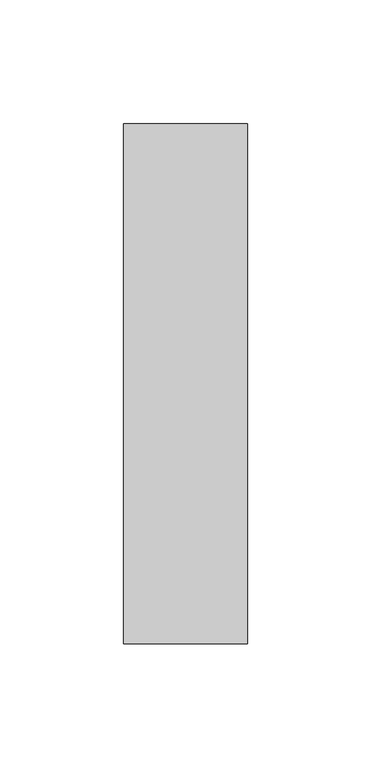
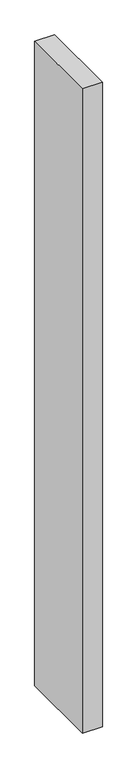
"""IFC4 building model written with IfcOpenShell, lengths in millimetres: proxy geometry, Menneau extrémité façade."""

from ifc_helpers import new_model, si_unit, frame, origin, place, context, project, spatial, polyline, outline, extrude, source, transform, mapped, element, save


def generic_models_8ddd485e(model_context):
    return source(origin(), model_context, "Body", "SweptSolid", [
        extrude(outline(polyline([(-3899.9988284, -10899.999999), (-3949.9987968, -10899.999999), (-3949.9987968, -10689.999999), (-3899.9988284, -10689.999999), (-3899.9988284, -10899.999999)])), frame((0.0, 0.0, 3175.0), z_axis=(0.0, 0.0, 1.0), x_axis=(1.0, 0.0, 0.0)), (0.0, 0.0, 1.0), 1725.0),
    ])


if __name__ == "__main__":
    model = new_model("IFC4")
    model_context = context("Model", 3, world=origin())
    ifc_project = project(units=[si_unit("LENGTHUNIT", "METRE", prefix="MILLI")], contexts=[model_context])
    site = spatial("IfcSite", under=ifc_project)
    building = spatial("IfcBuilding", under=site)
    placement = place(None, origin())
    generic_models_shape = generic_models_8ddd485e(model_context)
    element("IfcBuildingElementProxy", 1, Name="Menneau extrémité façade", ObjectType="Menneau extrémité façade", at=placement, inside=building, context=model_context, shape_type="MappedRepresentation", body=[
        mapped(generic_models_shape, transform((0.0, 0.0, 0.0), x_axis=(1.0, 0.0, 0.0), y_axis=(0.0, 1.0, 0.0), z_axis=(0.0, 0.0, 1.0))),
    ])
    save(model, "model.ifc")
